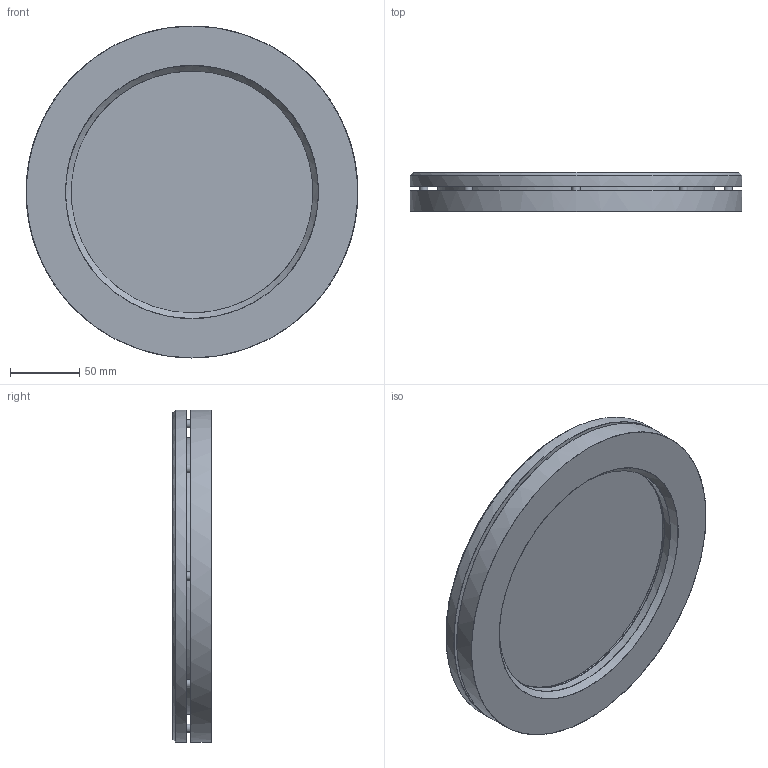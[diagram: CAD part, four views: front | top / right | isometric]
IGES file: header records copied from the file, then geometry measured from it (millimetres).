
Start section: C
Global section: file name: Armatur 28120 drucklos DN 150.igs; native system: By Siemens PLM Incorporated; preprocessor: XPlus GENERIC/IGES 18.0.17; author: Author; organization: Title; date: 20160120.075525; units: millimetre
Bounding box: 239.77 x 28 x 240 mm (x, y, z)
Surface area: 228359.8 mm2 (no closed solid volume)
Topology: 0 solids, 0 shells, 236 faces, 1212 edges, 1196 vertices
Faces by surface type: bspline 236
